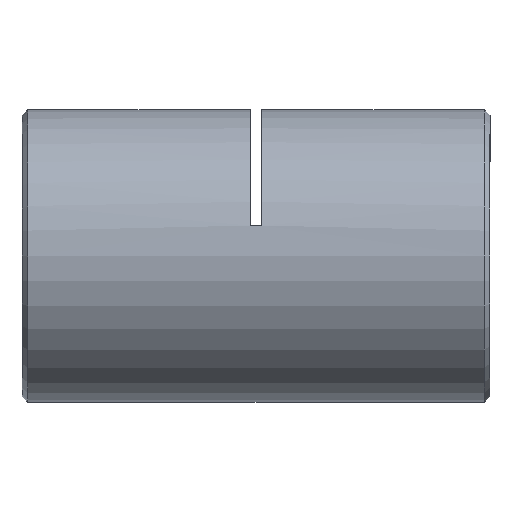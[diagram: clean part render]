
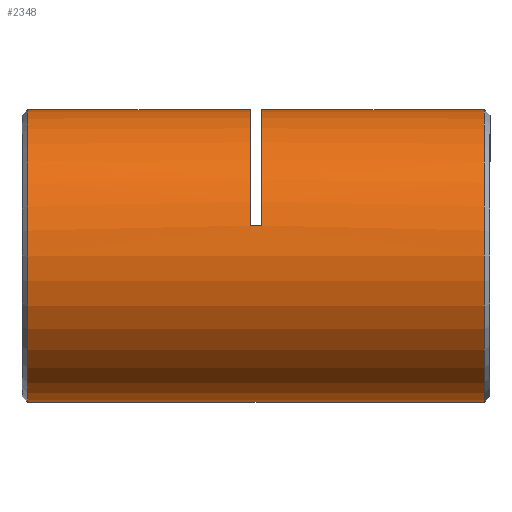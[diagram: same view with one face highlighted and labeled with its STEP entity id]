
A CAD part, left-side view. The second image highlights one B-rep face of the part: STEP entity #2348.
In plain terms, the highlighted cylindrical face has radius 12.5 mm (diameter 25 mm), a partial arc.
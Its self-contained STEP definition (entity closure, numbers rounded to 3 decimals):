
#14 = CARTESIAN_POINT ( 'NONE',  ( 0., 20.75, 0. ) ) ;
#32 = CARTESIAN_POINT ( 'NONE',  ( 0., 0.75, 12.5 ) ) ;
#129 = CARTESIAN_POINT ( 'NONE',  ( -12.226, 20.75, 2.604 ) ) ;
#147 = VERTEX_POINT ( 'NONE', #3263 ) ;
#154 = ORIENTED_EDGE ( 'NONE', *, *, #5366, .T. ) ;
#363 = VERTEX_POINT ( 'NONE', #2617 ) ;
#376 = CIRCLE ( 'NONE', #997, 12.5 ) ;
#379 = DIRECTION ( 'NONE',  ( 0., 1., 0. ) ) ;
#389 = CARTESIAN_POINT ( 'NONE',  ( 0., 0.75, 0. ) ) ;
#405 = ORIENTED_EDGE ( 'NONE', *, *, #699, .F. ) ;
#465 = VERTEX_POINT ( 'NONE', #851 ) ;
#685 = ORIENTED_EDGE ( 'NONE', *, *, #1689, .T. ) ;
#693 = DIRECTION ( 'NONE',  ( 0., 0., -1. ) ) ;
#699 = EDGE_CURVE ( 'NONE', #5127, #465, #376, .T. ) ;
#714 = VECTOR ( 'NONE', #2705, 1000. ) ;
#787 = CARTESIAN_POINT ( 'NONE',  ( -12.226, 20.25, 2.604 ) ) ;
#810 = LINE ( 'NONE', #1227, #3992 ) ;
#851 = CARTESIAN_POINT ( 'NONE',  ( 0., 19.75, 12.5 ) ) ;
#997 = AXIS2_PLACEMENT_3D ( 'NONE', #5264, #3102, #1802 ) ;
#1039 = VECTOR ( 'NONE', #2825, 1000. ) ;
#1112 = EDGE_LOOP ( 'NONE', ( #2841, #685, #154, #3411, #4966, #405, #1381, #1408 ) ) ;
#1120 = VERTEX_POINT ( 'NONE', #32 ) ;
#1227 = CARTESIAN_POINT ( 'NONE',  ( 0., 40.5, 12.5 ) ) ;
#1311 = AXIS2_PLACEMENT_3D ( 'NONE', #5502, #2005, #693 ) ;
#1381 = ORIENTED_EDGE ( 'NONE', *, *, #4058, .T. ) ;
#1408 = ORIENTED_EDGE ( 'NONE', *, *, #3516, .T. ) ;
#1455 = CYLINDRICAL_SURFACE ( 'NONE', #1311, 12.5 ) ;
#1630 = EDGE_CURVE ( 'NONE', #465, #1120, #810, .T. ) ;
#1682 = AXIS2_PLACEMENT_3D ( 'NONE', #2908, #4695, #2483 ) ;
#1689 = EDGE_CURVE ( 'NONE', #363, #4101, #4190, .T. ) ;
#1738 = VERTEX_POINT ( 'NONE', #3576 ) ;
#1802 = DIRECTION ( 'NONE',  ( 0., 0., 1. ) ) ;
#1884 = AXIS2_PLACEMENT_3D ( 'NONE', #14, #5235, #5209 ) ;
#1972 = AXIS2_PLACEMENT_3D ( 'NONE', #389, #2498, #4774 ) ;
#1985 = EDGE_CURVE ( 'NONE', #363, #147, #3699, .T. ) ;
#2005 = DIRECTION ( 'NONE',  ( 0., -1., 0. ) ) ;
#2348 = ADVANCED_FACE ( 'NONE', ( #5474 ), #1455, .T. ) ;
#2449 = VECTOR ( 'NONE', #379, 1000. ) ;
#2483 = DIRECTION ( 'NONE',  ( 0., 0., -1. ) ) ;
#2498 = DIRECTION ( 'NONE',  ( 0., 1., 0. ) ) ;
#2509 = CARTESIAN_POINT ( 'NONE',  ( 0., 39.75, -12.5 ) ) ;
#2558 = DIRECTION ( 'NONE',  ( 0., -1., 0. ) ) ;
#2617 = CARTESIAN_POINT ( 'NONE',  ( 0., 39.75, 12.5 ) ) ;
#2705 = DIRECTION ( 'NONE',  ( 0., -1., 0. ) ) ;
#2825 = DIRECTION ( 'NONE',  ( 0., -1., 0. ) ) ;
#2841 = ORIENTED_EDGE ( 'NONE', *, *, #1985, .F. ) ;
#2908 = CARTESIAN_POINT ( 'NONE',  ( 0., 39.75, 0. ) ) ;
#3075 = CIRCLE ( 'NONE', #1884, 12.5 ) ;
#3102 = DIRECTION ( 'NONE',  ( 0., 1., 0. ) ) ;
#3263 = CARTESIAN_POINT ( 'NONE',  ( 0., 20.75, 12.5 ) ) ;
#3411 = ORIENTED_EDGE ( 'NONE', *, *, #4424, .T. ) ;
#3516 = EDGE_CURVE ( 'NONE', #4890, #147, #3075, .T. ) ;
#3576 = CARTESIAN_POINT ( 'NONE',  ( 0., 0.75, -12.5 ) ) ;
#3699 = LINE ( 'NONE', #4994, #1039 ) ;
#3992 = VECTOR ( 'NONE', #2558, 1000. ) ;
#4058 = EDGE_CURVE ( 'NONE', #5127, #4890, #5216, .T. ) ;
#4096 = CIRCLE ( 'NONE', #1972, 12.5 ) ;
#4101 = VERTEX_POINT ( 'NONE', #2509 ) ;
#4190 = CIRCLE ( 'NONE', #1682, 12.5 ) ;
#4424 = EDGE_CURVE ( 'NONE', #1738, #1120, #4096, .T. ) ;
#4532 = CARTESIAN_POINT ( 'NONE',  ( 0., 40.5, -12.5 ) ) ;
#4695 = DIRECTION ( 'NONE',  ( 0., -1., 0. ) ) ;
#4774 = DIRECTION ( 'NONE',  ( 0., 0., 1. ) ) ;
#4890 = VERTEX_POINT ( 'NONE', #129 ) ;
#4896 = LINE ( 'NONE', #4532, #714 ) ;
#4966 = ORIENTED_EDGE ( 'NONE', *, *, #1630, .F. ) ;
#4994 = CARTESIAN_POINT ( 'NONE',  ( 0., 40.5, 12.5 ) ) ;
#5124 = CARTESIAN_POINT ( 'NONE',  ( -12.226, 19.75, 2.604 ) ) ;
#5127 = VERTEX_POINT ( 'NONE', #5124 ) ;
#5209 = DIRECTION ( 'NONE',  ( 0., 0., 1. ) ) ;
#5216 = LINE ( 'NONE', #787, #2449 ) ;
#5235 = DIRECTION ( 'NONE',  ( 0., 1., 0. ) ) ;
#5264 = CARTESIAN_POINT ( 'NONE',  ( 0., 19.75, 0. ) ) ;
#5366 = EDGE_CURVE ( 'NONE', #4101, #1738, #4896, .T. ) ;
#5474 = FACE_OUTER_BOUND ( 'NONE', #1112, .T. ) ;
#5502 = CARTESIAN_POINT ( 'NONE',  ( 0., 40.5, 0. ) ) ;
